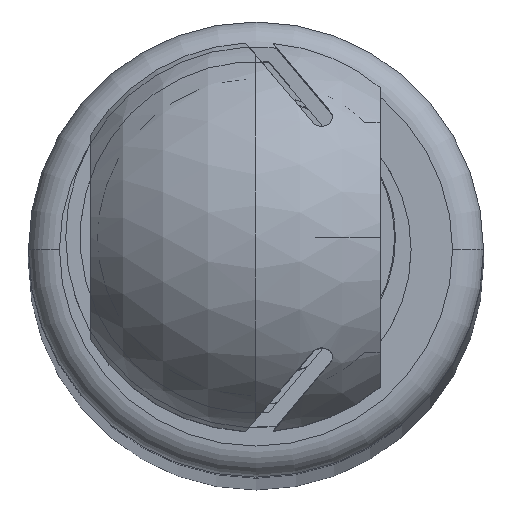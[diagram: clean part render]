
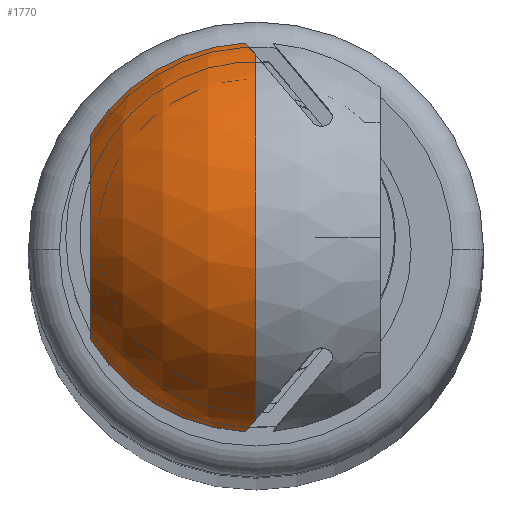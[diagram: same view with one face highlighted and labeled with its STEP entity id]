
A CAD part, top view. The second image highlights one B-rep face of the part: STEP entity #1770.
In plain terms, the highlighted spherical face has radius 10 mm.
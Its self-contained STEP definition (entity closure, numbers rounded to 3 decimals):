
#232 = SPHERICAL_SURFACE ( 'NONE', #4222, 10. ) ;
#235 = FACE_OUTER_BOUND ( 'NONE', #2579, .T. ) ;
#382 = DIRECTION ( 'NONE',  ( 1., 0., 0. ) ) ;
#383 = DIRECTION ( 'NONE',  ( 0., 0., 1. ) ) ;
#384 = CARTESIAN_POINT ( 'NONE',  ( -127., 0., 0. ) ) ;
#417 = DIRECTION ( 'NONE',  ( -1., 0., 0. ) ) ;
#418 = DIRECTION ( 'NONE',  ( 0., 0., -1. ) ) ;
#419 = CARTESIAN_POINT ( 'NONE',  ( -127., 0., 0. ) ) ;
#459 = CARTESIAN_POINT ( 'NONE',  ( -131.752, -8.799, 0. ) ) ;
#461 = CARTESIAN_POINT ( 'NONE',  ( -137., 0., 0. ) ) ;
#463 = CARTESIAN_POINT ( 'NONE',  ( -130.4, 9.391, 0.497 ) ) ;
#479 = CARTESIAN_POINT ( 'NONE',  ( -130.4, 4.944, 8. ) ) ;
#545 = CARTESIAN_POINT ( 'NONE',  ( -130.4, -4.944, 8. ) ) ;
#676 = CARTESIAN_POINT ( 'NONE',  ( -131.752, 8.799, 0. ) ) ;
#685 = CARTESIAN_POINT ( 'NONE',  ( -130.4, -9.391, 0.497 ) ) ;
#1029 = DIRECTION ( 'NONE',  ( 0., -0.643, 0.766 ) ) ;
#1272 = CARTESIAN_POINT ( 'NONE',  ( -127., -3.635, -4.332 ) ) ;
#1283 = DIRECTION ( 'NONE',  ( 0., 0.643, 0.766 ) ) ;
#1285 = DIRECTION ( 'NONE',  ( 0., -0.766, 0.643 ) ) ;
#1304 = CARTESIAN_POINT ( 'NONE',  ( -127., 0., 8. ) ) ;
#1309 = DIRECTION ( 'NONE',  ( 0., 0., -1. ) ) ;
#1313 = CARTESIAN_POINT ( 'NONE',  ( -127., 3.635, -4.332 ) ) ;
#1343 = DIRECTION ( 'NONE',  ( 0., -0.766, -0.643 ) ) ;
#1398 = DIRECTION ( 'NONE',  ( -1., 0., 0. ) ) ;
#1647 = EDGE_CURVE ( 'NONE', #2516, #2151, #4516, .T. ) ;
#1665 = EDGE_CURVE ( 'NONE', #2605, #2142, #4346, .T. ) ;
#1690 = EDGE_CURVE ( 'NONE', #2319, #2435, #4385, .T. ) ;
#1770 = ADVANCED_FACE ( 'NONE', ( #235 ), #232, .T. ) ;
#1781 = EDGE_CURVE ( 'NONE', #2142, #2319, #4206, .T. ) ;
#2142 = VERTEX_POINT ( 'NONE', #685 ) ;
#2151 = VERTEX_POINT ( 'NONE', #676 ) ;
#2164 = ORIENTED_EDGE ( 'NONE', *, *, #1690, .T. ) ;
#2175 = ORIENTED_EDGE ( 'NONE', *, *, #3980, .T. ) ;
#2178 = ORIENTED_EDGE ( 'NONE', *, *, #3761, .T. ) ;
#2198 = ORIENTED_EDGE ( 'NONE', *, *, #1647, .T. ) ;
#2319 = VERTEX_POINT ( 'NONE', #545 ) ;
#2435 = VERTEX_POINT ( 'NONE', #479 ) ;
#2516 = VERTEX_POINT ( 'NONE', #463 ) ;
#2553 = ORIENTED_EDGE ( 'NONE', *, *, #3755, .F. ) ;
#2556 = ORIENTED_EDGE ( 'NONE', *, *, #1781, .T. ) ;
#2569 = ORIENTED_EDGE ( 'NONE', *, *, #1665, .T. ) ;
#2579 = EDGE_LOOP ( 'NONE', ( #2553, #2569, #2556, #2164, #2175, #2198, #2178 ) ) ;
#2590 = VERTEX_POINT ( 'NONE', #461 ) ;
#2605 = VERTEX_POINT ( 'NONE', #459 ) ;
#3381 = CARTESIAN_POINT ( 'NONE',  ( -130.4, 0., 0. ) ) ;
#3384 = DIRECTION ( 'NONE',  ( -1., 0., 0. ) ) ;
#3457 = CARTESIAN_POINT ( 'NONE',  ( -127., 0., 0. ) ) ;
#3486 = DIRECTION ( 'NONE',  ( 0., 0., -1. ) ) ;
#3487 = DIRECTION ( 'NONE',  ( 0., 1., 0. ) ) ;
#3612 = DIRECTION ( 'NONE',  ( 0., 0., 1. ) ) ;
#3755 = EDGE_CURVE ( 'NONE', #2605, #2590, #4212, .T. ) ;
#3761 = EDGE_CURVE ( 'NONE', #2151, #2590, #4251, .T. ) ;
#3980 = EDGE_CURVE ( 'NONE', #2435, #2516, #4793, .T. ) ;
#4185 = AXIS2_PLACEMENT_3D ( 'NONE', #3381, #3384, #3612 ) ;
#4206 = CIRCLE ( 'NONE', #4185, 9.404 ) ;
#4212 = CIRCLE ( 'NONE', #4245, 10. ) ;
#4222 = AXIS2_PLACEMENT_3D ( 'NONE', #3457, #3486, #3487 ) ;
#4245 = AXIS2_PLACEMENT_3D ( 'NONE', #419, #418, #417 ) ;
#4251 = CIRCLE ( 'NONE', #4265, 10. ) ;
#4265 = AXIS2_PLACEMENT_3D ( 'NONE', #384, #383, #382 ) ;
#4308 = AXIS2_PLACEMENT_3D ( 'NONE', #1272, #1283, #1285 ) ;
#4335 = AXIS2_PLACEMENT_3D ( 'NONE', #1304, #1309, #1398 ) ;
#4346 = CIRCLE ( 'NONE', #4308, 8.247 ) ;
#4385 = CIRCLE ( 'NONE', #4335, 6. ) ;
#4516 = CIRCLE ( 'NONE', #4529, 8.247 ) ;
#4529 = AXIS2_PLACEMENT_3D ( 'NONE', #1313, #1029, #1343 ) ;
#4558 = CARTESIAN_POINT ( 'NONE',  ( -130.4, 0., 0. ) ) ;
#4559 = DIRECTION ( 'NONE',  ( -1., 0., 0. ) ) ;
#4560 = DIRECTION ( 'NONE',  ( 0., 0., 1. ) ) ;
#4787 = AXIS2_PLACEMENT_3D ( 'NONE', #4558, #4559, #4560 ) ;
#4793 = CIRCLE ( 'NONE', #4787, 9.404 ) ;
